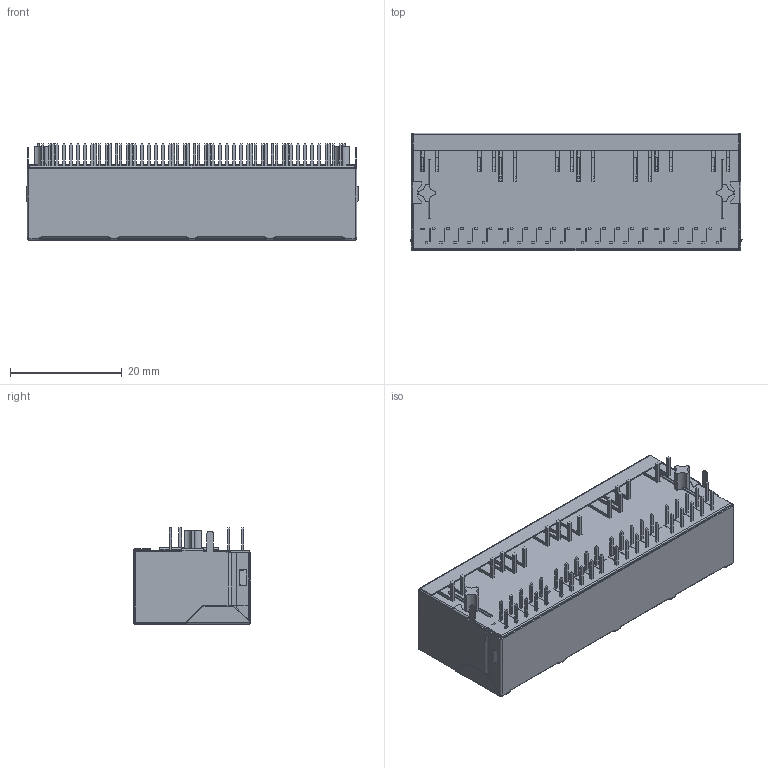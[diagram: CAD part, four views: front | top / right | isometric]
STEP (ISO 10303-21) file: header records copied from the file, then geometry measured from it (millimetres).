
FILE_DESCRIPTION((''),'2;1');
FILE_NAME('DGKYD114Q066AA2A1D','2023-03-20T11:35:14',('Administrator'),(''),'CREO PARAMETRIC BY PTC INC, 2019010','CREO PARAMETRIC BY PTC INC, 2019010','');
FILE_SCHEMA(('CONFIG_CONTROL_DESIGN'));
Products named in the file (1): DGKYD114Q066AA2A1D
Bounding box: 59.46 x 21.1 x 17.25 mm (x, y, z)
Volume: 7403.9 mm3; surface area: 21019.6 mm2
Topology: 1 solids, 1 shells, 4063 faces, 13617 edges, 8878 vertices
Faces by surface type: plane 3140, cylinder 883, extrusion 26, bspline 8, sphere 6
Entity records: 150529 total; most frequent: CARTESIAN_POINT 30033, ORIENTED_EDGE 27222, DIRECTION 23289, EDGE_CURVE 13611, VECTOR 11065, LINE 11039, VERTEX_POINT 8878, AXIS2_PLACEMENT_3D 6112
